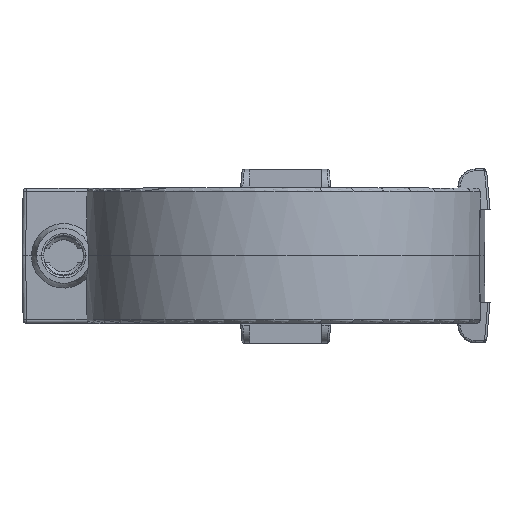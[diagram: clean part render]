
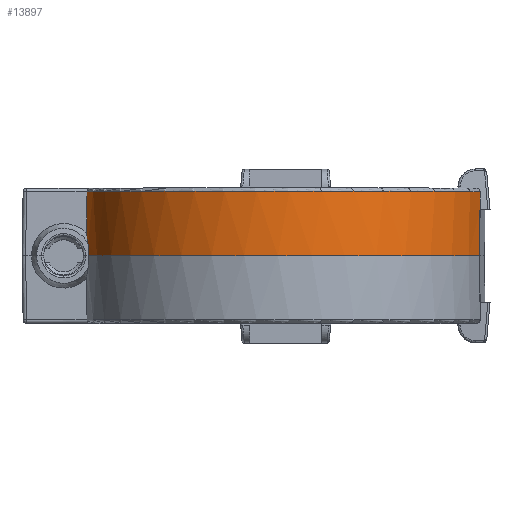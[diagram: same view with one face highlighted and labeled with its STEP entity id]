
A CAD part, top view. The second image highlights one B-rep face of the part: STEP entity #13897.
In plain terms, the highlighted conical face has half-angle 1 degrees and reference radius 28.121 mm.
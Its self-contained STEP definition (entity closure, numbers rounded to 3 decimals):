
#3924=CARTESIAN_POINT('',(0.,9.009,0.));
#3925=DIRECTION('',(0.,1.,0.));
#3926=DIRECTION('',(-0.995,0.,0.101));
#3927=AXIS2_PLACEMENT_3D('',#3924,#3925,#3926);
#4777=CARTESIAN_POINT('',(0.,0.,0.));
#4778=DIRECTION('',(0.,1.,0.));
#4779=DIRECTION('',(-0.984,0.,0.177));
#4780=AXIS2_PLACEMENT_3D('',#4777,#4778,#4779);
#4782=CARTESIAN_POINT('',(-27.74,1.576,4.917));
#4783=CARTESIAN_POINT('',(-27.744,1.051,4.945));
#4784=CARTESIAN_POINT('',(-27.749,0.525,
4.972));
#4785=CARTESIAN_POINT('',(-27.753,0.,
5.));
#4787=CARTESIAN_POINT('',(-27.99,3.183,2.944));
#4788=CARTESIAN_POINT('',(-27.964,3.016,3.217));
#4789=CARTESIAN_POINT('',(-27.908,2.677,3.729));
#4790=CARTESIAN_POINT('',(-27.82,2.144,4.396));
#4791=CARTESIAN_POINT('',(-27.765,1.77,4.758));
#4792=CARTESIAN_POINT('',(-27.74,1.576,4.917));
#4794=CARTESIAN_POINT('',(-27.898,9.009,2.843));
#4795=CARTESIAN_POINT('',(-27.908,8.362,2.854));
#4796=CARTESIAN_POINT('',(-27.929,7.068,2.877));
#4797=CARTESIAN_POINT('',(-27.959,5.126,2.911));
#4798=CARTESIAN_POINT('',(-27.98,3.831,2.933));
#4799=CARTESIAN_POINT('',(-27.99,3.183,2.944));
#4801=CARTESIAN_POINT('',(27.3,6.5,6.6));
#4802=CARTESIAN_POINT('',(27.303,7.336,6.527));
#4803=CARTESIAN_POINT('',(27.305,8.172,6.454));
#4804=CARTESIAN_POINT('',(27.307,9.009,6.381));
#4806=CARTESIAN_POINT('',(27.274,0.,
7.169));
#4807=CARTESIAN_POINT('',(27.284,2.167,6.979));
#4808=CARTESIAN_POINT('',(27.293,4.333,6.79));
#4809=CARTESIAN_POINT('',(27.3,6.5,6.6));
#6746=VERTEX_POINT('',#4787);
#6747=VERTEX_POINT('',#4792);
#6749=CARTESIAN_POINT('',(-27.898,9.009,2.843));
#6751=VERTEX_POINT('',#6749);
#6752=CARTESIAN_POINT('',(27.307,9.009,6.381));
#6753=VERTEX_POINT('',#6752);
#6754=VERTEX_POINT('',#4801);
#7342=CARTESIAN_POINT('',(-27.753,0.,5.));
#7343=CARTESIAN_POINT('',(27.274,0.,7.169));
#7344=VERTEX_POINT('',#7342);
#7345=VERTEX_POINT('',#7343);
#13879=CARTESIAN_POINT('',(0.,4.504,0.));
#13880=DIRECTION('',(0.,-1.,0.));
#13881=DIRECTION('',(-1.,0.,0.));
#13882=AXIS2_PLACEMENT_3D('',#13879,#13880,#13881);
#13883=CONICAL_SURFACE('',#13882,28.121,1.);
#13885=ORIENTED_EDGE('',*,*,#13884,.F.);
#13887=ORIENTED_EDGE('',*,*,#13886,.F.);
#13889=ORIENTED_EDGE('',*,*,#13888,.F.);
#13890=ORIENTED_EDGE('',*,*,#13779,.F.);
#13891=ORIENTED_EDGE('',*,*,#12805,.T.);
#13892=ORIENTED_EDGE('',*,*,#12819,.F.);
#13894=ORIENTED_EDGE('',*,*,#13893,.F.);
#13895=EDGE_LOOP('',(#13885,#13887,#13889,#13890,#13891,#13892,#13894));
#13896=FACE_OUTER_BOUND('',#13895,.F.);
#3928=CIRCLE('',#3927,28.043);
#4781=CIRCLE('',#4780,28.2);
#4786=B_SPLINE_CURVE_WITH_KNOTS('',3,(#4782,#4783,#4784,#4785),.UNSPECIFIED.,
.F.,.F.,(4,4),(0.,1.),.UNSPECIFIED.);
#4793=B_SPLINE_CURVE_WITH_KNOTS('',3,(#4787,#4788,#4789,#4790,#4791,#4792),
.UNSPECIFIED.,.F.,.F.,(4,1,1,4),(0.,0.333,0.667,1.),
.UNSPECIFIED.);
#4800=B_SPLINE_CURVE_WITH_KNOTS('',3,(#4794,#4795,#4796,#4797,#4798,#4799),
.UNSPECIFIED.,.F.,.F.,(4,1,1,4),(0.,0.333,0.667,1.),
.UNSPECIFIED.);
#4805=B_SPLINE_CURVE_WITH_KNOTS('',3,(#4801,#4802,#4803,#4804),.UNSPECIFIED.,
.F.,.F.,(4,4),(0.,1.),.UNSPECIFIED.);
#4810=B_SPLINE_CURVE_WITH_KNOTS('',3,(#4806,#4807,#4808,#4809),.UNSPECIFIED.,
.F.,.F.,(4,4),(0.,1.),.UNSPECIFIED.);
#12805=EDGE_CURVE('',#6751,#6753,#3928,.T.);
#12819=EDGE_CURVE('',#6754,#6753,#4805,.T.);
#13779=EDGE_CURVE('',#6751,#6746,#4800,.T.);
#13884=EDGE_CURVE('',#7344,#7345,#4781,.T.);
#13886=EDGE_CURVE('',#6747,#7344,#4786,.T.);
#13888=EDGE_CURVE('',#6746,#6747,#4793,.T.);
#13893=EDGE_CURVE('',#7345,#6754,#4810,.T.);
#13897=ADVANCED_FACE('',(#13896),#13883,.T.);
